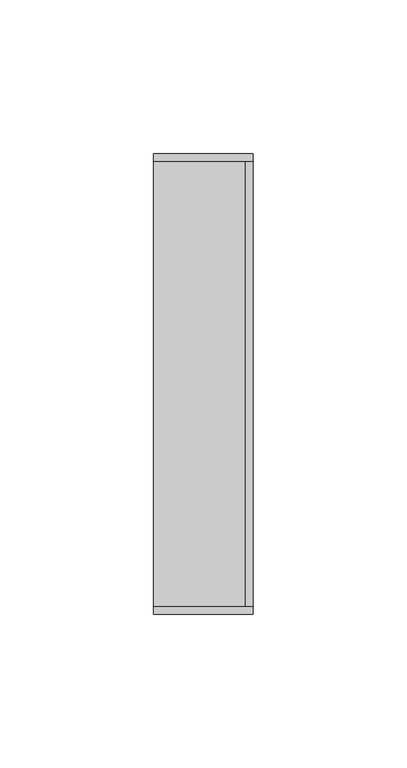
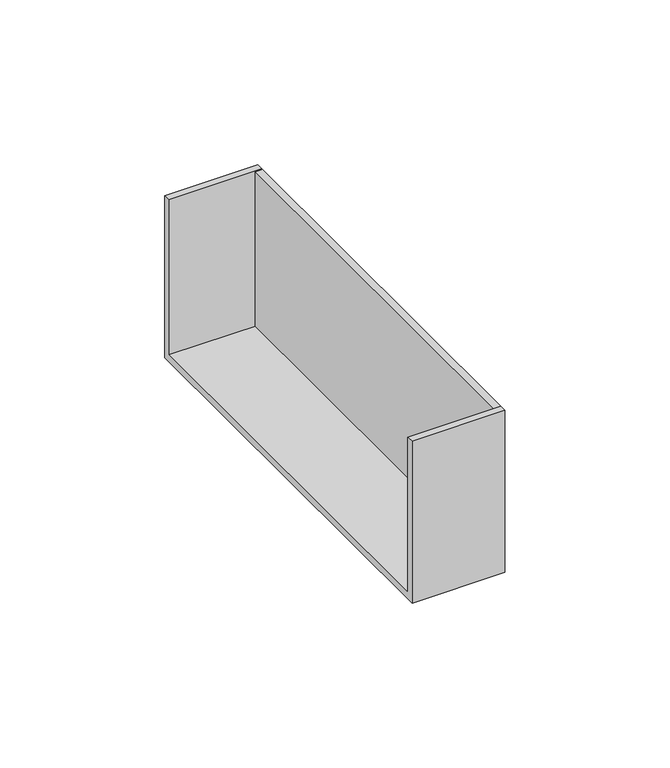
"""IFC4 building model written with IfcOpenShell, lengths in millimetres: cable carrier fitting geometry, КНС_ЗаглушкаТорцеваяLAN_ILC_DKC : Заглушка торцевая LAN_DKC."""

from ifc_helpers import new_model, si_unit, frame, origin, place, context, project, spatial, polyline, outline, extrude, source, transform, mapped, element, save


def cable_carrier_fitting_8e881f24(model_context):
    return source(origin(), model_context, "Body", "SweptSolid", [
        extrude(outline(polyline([(75.0, -30.0), (-75.0, -30.0), (-75.0, 30.0), (-72.5, 30.0), (-72.5, -27.5), (72.5, -27.5), (72.5, 30.0), (75.0, 30.0), (75.0, -30.0)])), frame((-32.5, 0.0, 0.0), z_axis=(1.0, 0.0, 0.0), x_axis=(0.0, 1.0, 0.0)), (0.0, 0.0, 1.0), 32.5),
        extrude(outline(polyline([(0.0, 72.5), (0.0, -72.5), (-2.5, -72.5), (-2.5, 72.5), (0.0, 72.5)])), frame((0.0, 0.0, -30.0), z_axis=(0.0, 0.0, 1.0), x_axis=(1.0, 0.0, 0.0)), (0.0, 0.0, 1.0), 60.0),
    ])


if __name__ == "__main__":
    model = new_model("IFC4")
    model_context = context("Model", 3, world=origin())
    ifc_project = project(units=[si_unit("LENGTHUNIT", "METRE", prefix="MILLI")], contexts=[model_context])
    site = spatial("IfcSite", under=ifc_project)
    building = spatial("IfcBuilding", under=site)
    placement = place(None, origin())
    cable_carrier_fitting_shape = cable_carrier_fitting_8e881f24(model_context)
    element("IfcCableCarrierFitting", 1, ObjectType="КНС_ЗаглушкаТорцеваяLAN_ILC_DKC : Заглушка торцевая LAN_DKC", at=placement, inside=building, context=model_context, shape_type="MappedRepresentation", body=[
        mapped(cable_carrier_fitting_shape, transform((0.0, 0.0, 0.0), x_axis=(1.0, 0.0, 0.0), y_axis=(0.0, 1.0, 0.0), z_axis=(0.0, 0.0, 1.0))),
    ])
    save(model, "model.ifc")
